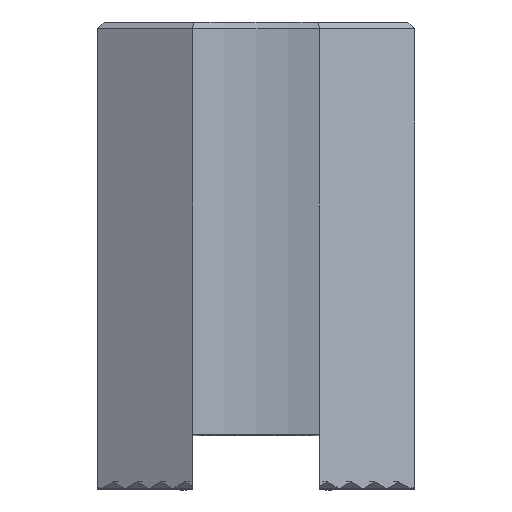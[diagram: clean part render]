
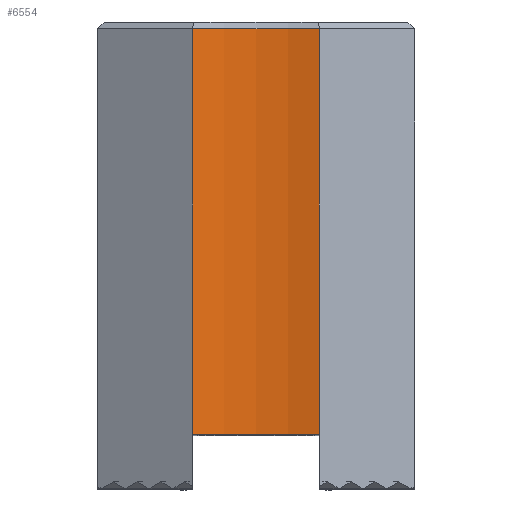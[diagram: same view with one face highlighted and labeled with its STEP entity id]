
A CAD part, top view. The second image highlights one B-rep face of the part: STEP entity #6554.
In plain terms, the highlighted cylindrical face has radius 25 mm (diameter 50 mm), a partial arc.
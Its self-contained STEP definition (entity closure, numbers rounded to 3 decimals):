
#58=CYLINDRICAL_SURFACE('',#7000,25.);
#137=CIRCLE('',#6962,25.);
#146=CIRCLE('',#6991,25.);
#237=FACE_OUTER_BOUND('',#585,.T.);
#585=EDGE_LOOP('',(#4773,#4774,#4775,#4776));
#1114=LINE('',#9767,#1989);
#1115=LINE('',#9768,#1990);
#1989=VECTOR('',#7867,10.);
#1990=VECTOR('',#7868,10.);
#2727=VERTEX_POINT('',#9389);
#2728=VERTEX_POINT('',#9391);
#2868=VERTEX_POINT('',#9718);
#2871=VERTEX_POINT('',#9737);
#3422=EDGE_CURVE('',#2728,#2727,#137,.T.);
#3588=EDGE_CURVE('',#2871,#2868,#146,.T.);
#3599=EDGE_CURVE('',#2871,#2728,#1114,.T.);
#3600=EDGE_CURVE('',#2727,#2868,#1115,.T.);
#4773=ORIENTED_EDGE('',*,*,#3588,.F.);
#4774=ORIENTED_EDGE('',*,*,#3599,.T.);
#4775=ORIENTED_EDGE('',*,*,#3422,.T.);
#4776=ORIENTED_EDGE('',*,*,#3600,.T.);
#6554=ADVANCED_FACE('',(#237),#58,.F.);
#6962=AXIS2_PLACEMENT_3D('',#9392,#7632,#7633);
#6991=AXIS2_PLACEMENT_3D('',#9742,#7840,#7841);
#7000=AXIS2_PLACEMENT_3D('',#9766,#7865,#7866);
#7632=DIRECTION('center_axis',(0.,-1.,0.));
#7633=DIRECTION('ref_axis',(0.28,0.,-0.96));
#7840=DIRECTION('center_axis',(0.,-1.,0.));
#7841=DIRECTION('ref_axis',(0.28,0.,-0.96));
#7865=DIRECTION('center_axis',(0.,-1.,0.));
#7866=DIRECTION('ref_axis',(0.28,0.,-0.96));
#7867=DIRECTION('',(0.,-1.,0.));
#7868=DIRECTION('',(0.,1.,0.));
#9389=CARTESIAN_POINT('',(24.5,6.,0.));
#9391=CARTESIAN_POINT('',(10.5,6.,0.));
#9392=CARTESIAN_POINT('Origin',(17.5,6.,24.));
#9718=CARTESIAN_POINT('',(24.5,50.75,0.));
#9737=CARTESIAN_POINT('',(10.5,50.75,0.));
#9742=CARTESIAN_POINT('Origin',(17.5,50.75,24.));
#9766=CARTESIAN_POINT('Origin',(17.5,51.5,24.));
#9767=CARTESIAN_POINT('',(10.5,25.75,0.));
#9768=CARTESIAN_POINT('',(24.5,25.75,0.));
